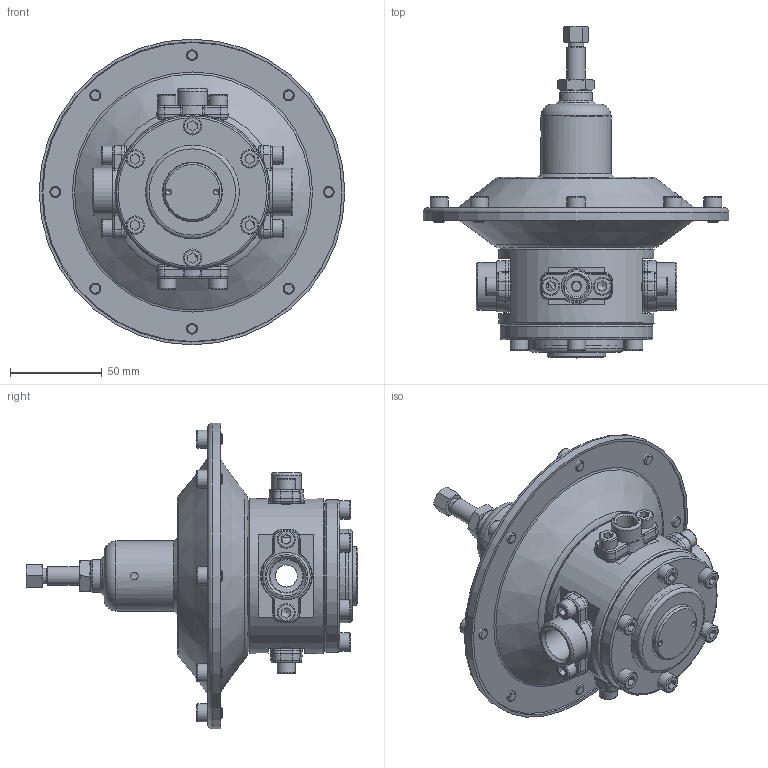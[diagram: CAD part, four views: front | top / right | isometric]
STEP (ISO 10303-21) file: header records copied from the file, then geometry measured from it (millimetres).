
FILE_DESCRIPTION(/* description */ (''),/* implementation_level */ '2;1');
FILE_NAME(/* name */ 'B-R3100-04A-E_02.step',/* time_stamp */ '2023-08-21T13:06:09+02:00',/* author */ (''),/* organization */ (''),/* preprocessor_version */ 'ST-DEVELOPER v20',/* originating_system */ 'Autodesk Translation Framework v12.9.0.99',/* authorisation */ '');
FILE_SCHEMA (('AUTOMOTIVE_DESIGN { 1 0 10303 214 3 1 1 }'));
Length unit declared in the file: millimetre
Products named in the file (41): (Nicht gespeichert); P20648; C51009; C51009_Saldature; P64042; P21039; P38058; P37110; P43123; P37128; P64038; P34230; P43163; P43163_1; P43163_2; P43163_3; P43163_4; 0DC10410; 0DC10410_1; 0DC10410_2; 0DC10410_3; 0DC10410_4; 0DC10410_5; 0DC10410_6; 0DC10410_7; 0DC10410_8; 0DC10410_9; P37129; P37131; 0DC10410_10; 0DC10410_11; 0DC10410_12; 0DC10410_13; OR 07021; OR 07054; P43163_5; 0DN11400; 0DC10405; C23090; P23079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
Assembly tree (50 placements, depth 3):
  (Nicht gespeichert)
    P20648
    C51009
      C51009_Saldature
      P64042
      P21039
      P38058
    P37110
    P43123
    P37128  x2
    P64038
    P34230
    P43163
    P43163_1
    P43163_2
    P43163_3
    P43163_4
    0DC10410
    0DC10410_1
    0DC10410_2
    0DC10410_3
    0DC10410_4
    0DC10410_5
    0DC10410_6
    0DC10410_7
    0DC10410_8
    0DC10410_9
    P37129
    P37131
    0DC10410_10
    0DC10410_11
    0DC10410_12
    0DC10410_13
    OR 07021  x2
    OR 07054  x2
    P43163_5
    0DN11400
    0DC10405  x8
    C23090
      P23079
      P23080
Bounding box: 166.5 x 180.8 x 166.5 mm (x, y, z)
Volume: 200130.9 mm3; surface area: 198500.6 mm2
Topology: 49 solids, 49 shells, 1009 faces, 2496 edges, 1601 vertices
Faces by surface type: plane 348, cylinder 269, cone 176, torus 136, bspline 80
Full cylindrical faces by diameter (mm): 3.1 x2, 4.134 x1, 4.917 x16, 5.1 x2, 5.6 x1, 6 x22, 6.5 x38, 7.7 x2, 8.3 x1, 8.917 x1, 10 x24, 11.2 x2, 11.445 x1, 12 x1, 14.9 x1, 15 x1, 16.5 x1, 18 x3, 18.631 x2, 19.5 x1, 20.3 x2, 22 x1, 23.8 x2, 26 x2, 30.5 x1, 32 x1, 37 x1, 38.2 x2, 38.5 x1, 50 x1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
Entity records: 29518 total; most frequent: CARTESIAN_POINT 8492, DIRECTION 4228, ORIENTED_EDGE 4078, EDGE_CURVE 2039, AXIS2_PLACEMENT_3D 1796, VERTEX_POINT 1331, EDGE_LOOP 1008, CIRCLE 912
